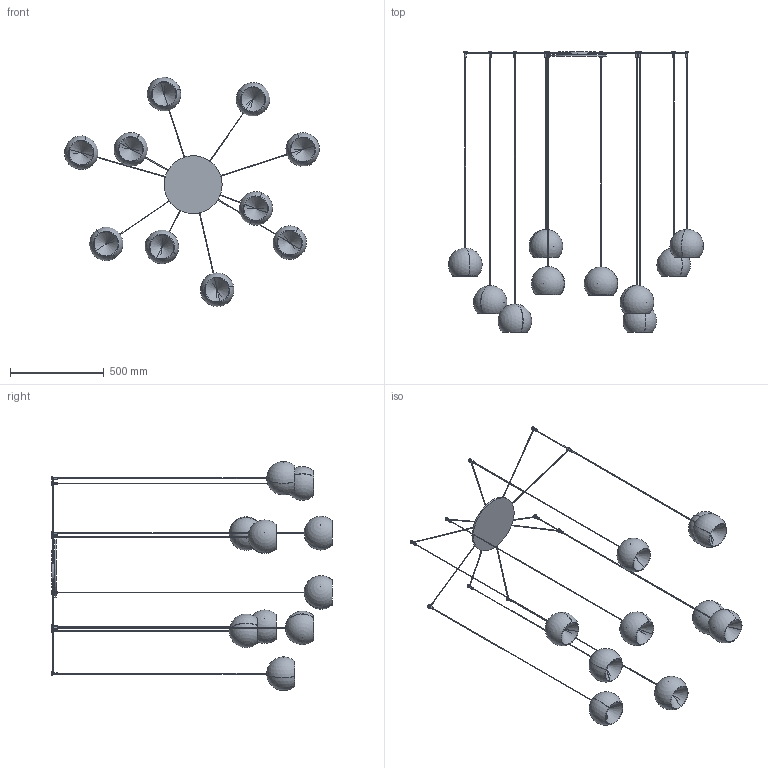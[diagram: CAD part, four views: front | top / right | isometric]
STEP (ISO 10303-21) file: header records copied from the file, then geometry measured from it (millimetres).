
FILE_DESCRIPTION (( 'STEP AP203' ), '1' );
FILE_NAME ('CHR10-00-CHERRY_10 sospensione.STEP', '2024-07-31T08:30:55', ( '' ), ( '' ), 'SwSTEP 2.0', 'SolidWorks 2022', '' );
FILE_SCHEMA (( 'CONFIG_CONTROL_DESIGN' ));
Length unit declared in the file: millimetre
Products named in the file (7): CHERRY_Lampada singola Diam.180_H=1500; CHERRY_Lampada singola Diam.180_H=1800; CHERRY_Lampada singola Diam.180_H=1900; CHR10-00-CHERRY_10 sospensione; CHERRY_Rosone diam.310_Cherry 10<A macchina>; CHERRY_Lampada singola Diam.180_H=1600; CHERRY_Lampada singola Diam.180_H=1700
Assembly tree (11 placements, depth 2):
  CHR10-00-CHERRY_10 sospensione
    CHERRY_Rosone diam.310_Cherry 10<A macchina>
    CHERRY_Lampada singola Diam.180_H=1700  x2
    CHERRY_Lampada singola Diam.180_H=1600  x2
    CHERRY_Lampada singola Diam.180_H=1900  x2
    CHERRY_Lampada singola Diam.180_H=1500  x2
    CHERRY_Lampada singola Diam.180_H=1800  x2
Bounding box: 1363.45 x 1500 x 1225.09 mm (x, y, z)
Volume: 3301090.5 mm3; surface area: 2480681.5 mm2
Topology: 51 solids, 51 shells, 384 faces, 911 edges, 570 vertices
Faces by surface type: cylinder 188, plane 116, sphere 40, cone 40
Entity records: 6968 total; most frequent: CARTESIAN_POINT 1482, DIRECTION 1054, ORIENTED_EDGE 882, AXIS2_PLACEMENT_3D 466, EDGE_CURVE 441, VERTEX_POINT 290, EDGE_LOOP 245, CIRCLE 228
